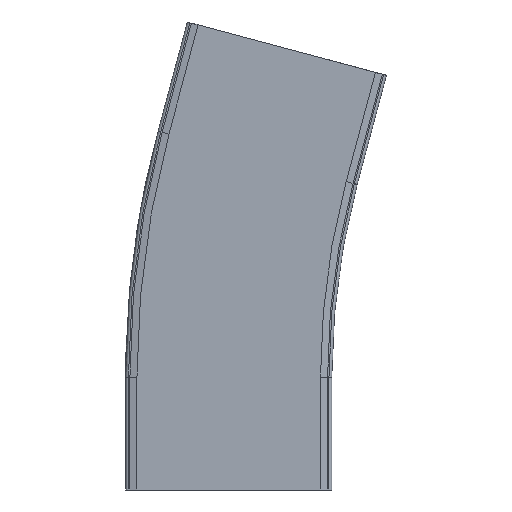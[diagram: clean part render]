
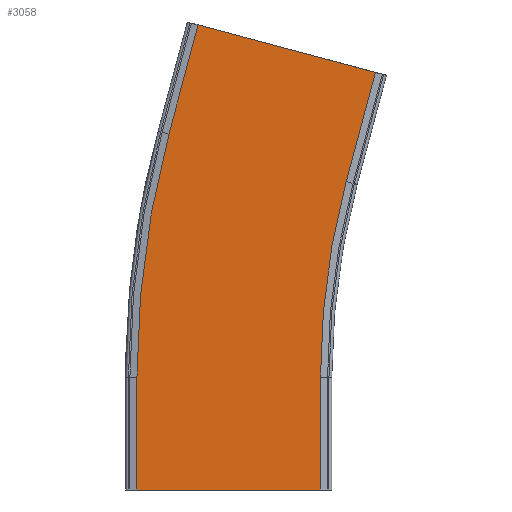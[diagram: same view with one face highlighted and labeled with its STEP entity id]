
A CAD part, front view. The second image highlights one B-rep face of the part: STEP entity #3058.
In plain terms, the highlighted planar face has unit normal (0, -1, 0).
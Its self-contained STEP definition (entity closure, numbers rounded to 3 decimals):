
#113=CIRCLE('',#3252,535.);
#114=CIRCLE('',#3254,665.);
#248=FACE_OUTER_BOUND('',#415,.T.);
#415=EDGE_LOOP('',(#2053,#2054,#2055,#2056,#2057,#2058,#2059,#2060));
#585=LINE('',#4286,#927);
#589=LINE('',#4293,#931);
#600=LINE('',#4326,#942);
#601=LINE('',#4328,#943);
#602=LINE('',#4329,#944);
#603=LINE('',#4330,#945);
#927=VECTOR('',#3480,10.);
#931=VECTOR('',#3486,10.);
#942=VECTOR('',#3517,10.);
#943=VECTOR('',#3518,10.);
#944=VECTOR('',#3519,10.);
#945=VECTOR('',#3520,10.);
#1269=VERTEX_POINT('',#4283);
#1270=VERTEX_POINT('',#4285);
#1272=VERTEX_POINT('',#4291);
#1281=VERTEX_POINT('',#4317);
#1282=VERTEX_POINT('',#4319);
#1283=VERTEX_POINT('',#4323);
#1284=VERTEX_POINT('',#4325);
#1285=VERTEX_POINT('',#4327);
#1569=EDGE_CURVE('',#1270,#1269,#585,.T.);
#1573=EDGE_CURVE('',#1272,#1269,#589,.T.);
#1586=EDGE_CURVE('',#1282,#1281,#113,.T.);
#1588=EDGE_CURVE('',#1283,#1272,#114,.T.);
#1589=EDGE_CURVE('',#1284,#1283,#600,.T.);
#1590=EDGE_CURVE('',#1284,#1285,#601,.T.);
#1591=EDGE_CURVE('',#1285,#1282,#602,.T.);
#1592=EDGE_CURVE('',#1281,#1270,#603,.T.);
#2053=ORIENTED_EDGE('',*,*,#1569,.T.);
#2054=ORIENTED_EDGE('',*,*,#1573,.F.);
#2055=ORIENTED_EDGE('',*,*,#1588,.F.);
#2056=ORIENTED_EDGE('',*,*,#1589,.F.);
#2057=ORIENTED_EDGE('',*,*,#1590,.T.);
#2058=ORIENTED_EDGE('',*,*,#1591,.T.);
#2059=ORIENTED_EDGE('',*,*,#1586,.T.);
#2060=ORIENTED_EDGE('',*,*,#1592,.T.);
#2943=PLANE('',#3253);
#3058=ADVANCED_FACE('',(#248),#2943,.T.);
#3252=AXIS2_PLACEMENT_3D('',#4320,#3510,#3511);
#3253=AXIS2_PLACEMENT_3D('',#4322,#3513,#3514);
#3254=AXIS2_PLACEMENT_3D('',#4324,#3515,#3516);
#3480=DIRECTION('',(-0.966,0.,0.259));
#3486=DIRECTION('',(0.259,0.,0.966));
#3510=DIRECTION('center_axis',(0.,1.,0.));
#3511=DIRECTION('ref_axis',(-1.,0.,0.));
#3513=DIRECTION('center_axis',(0.,-1.,0.));
#3514=DIRECTION('ref_axis',(-0.259,0.,-0.966));
#3515=DIRECTION('center_axis',(0.,1.,0.));
#3516=DIRECTION('ref_axis',(-1.,0.,0.));
#3517=DIRECTION('',(0.,0.,1.));
#3518=DIRECTION('',(1.,0.,0.));
#3519=DIRECTION('',(0.,0.,1.));
#3520=DIRECTION('',(0.259,0.,0.966));
#4283=CARTESIAN_POINT('',(17.366,-72.,329.389));
#4285=CARTESIAN_POINT('',(142.936,-72.,295.742));
#4286=CARTESIAN_POINT('',(110.094,-72.,304.542));
#4291=CARTESIAN_POINT('',(-3.34,-72.,252.115));
#4293=CARTESIAN_POINT('',(-64.701,-72.,23.113));
#4317=CARTESIAN_POINT('',(122.23,-72.,218.468));
#4319=CARTESIAN_POINT('',(104.001,-72.,80.));
#4320=CARTESIAN_POINT('Origin',(639.001,-72.,80.));
#4322=CARTESIAN_POINT('Origin',(60.87,-72.,-10.533));
#4323=CARTESIAN_POINT('',(-25.999,-72.,80.));
#4324=CARTESIAN_POINT('Origin',(639.001,-72.,80.));
#4325=CARTESIAN_POINT('',(-25.999,-72.,0.));
#4326=CARTESIAN_POINT('',(-25.999,-72.,0.));
#4327=CARTESIAN_POINT('',(104.001,-72.,0.));
#4328=CARTESIAN_POINT('',(-25.999,-72.,0.));
#4329=CARTESIAN_POINT('',(104.001,-72.,0.));
#4330=CARTESIAN_POINT('',(60.87,-72.,-10.533));
